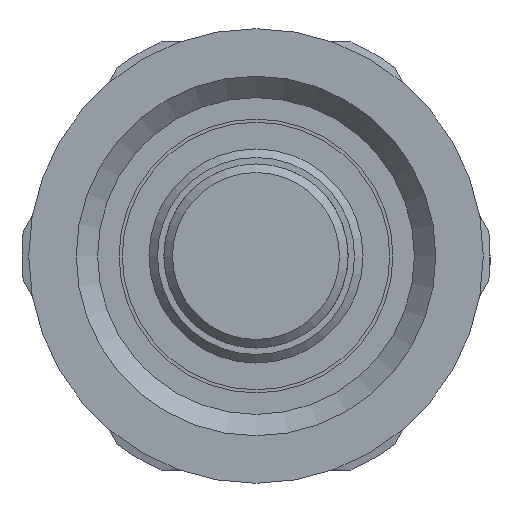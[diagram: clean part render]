
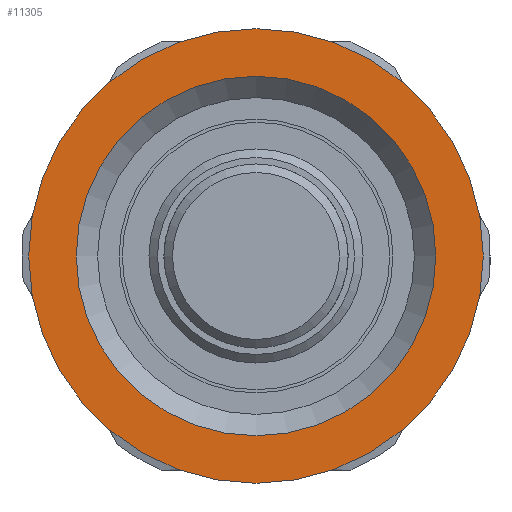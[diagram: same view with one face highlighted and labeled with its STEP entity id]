
A CAD part, left-side view. The second image highlights one B-rep face of the part: STEP entity #11305.
In plain terms, the highlighted planar face has unit normal (-1, 0, 0).
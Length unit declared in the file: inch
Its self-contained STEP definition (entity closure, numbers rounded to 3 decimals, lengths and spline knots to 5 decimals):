
#11271=CARTESIAN_POINT('',(-2.70929,-0.531,0.0));
#11272=VERTEX_POINT('',#11271);
#11273=CARTESIAN_POINT('',(-2.70929,0.,0.0));
#11274=DIRECTION('',(-1.0,0.0,0.0));
#11275=DIRECTION('',(0.0,-1.0,0.0));
#11276=AXIS2_PLACEMENT_3D('',#11273,#11274,#11275);
#11277=CIRCLE('',#11276,0.531);
#11278=EDGE_CURVE('',#11272,#11272,#11277,.T.);
#11286=CARTESIAN_POINT('',(-2.70929,-0.4755,0.0));
#11287=DIRECTION('',(-1.0,0.0,0.0));
#11288=DIRECTION('',(0.0,0.0,-1.0));
#11289=AXIS2_PLACEMENT_3D('',#11286,#11287,#11288);
#11290=PLANE('',#11289);
#11291=ORIENTED_EDGE('',*,*,#11278,.T.);
#11292=EDGE_LOOP('',(#11291));
#11293=FACE_OUTER_BOUND('',#11292,.T.);
#11294=CARTESIAN_POINT('',(-2.70929,-0.42,0.0));
#11295=VERTEX_POINT('',#11294);
#11296=CARTESIAN_POINT('',(-2.70929,0.,0.0));
#11297=DIRECTION('',(-1.0,0.0,0.0));
#11298=DIRECTION('',(0.0,-1.0,0.0));
#11299=AXIS2_PLACEMENT_3D('',#11296,#11297,#11298);
#11300=CIRCLE('',#11299,0.42);
#11301=EDGE_CURVE('',#11295,#11295,#11300,.T.);
#11302=ORIENTED_EDGE('',*,*,#11301,.F.);
#11303=EDGE_LOOP('',(#11302));
#11304=FACE_BOUND('',#11303,.T.);
#11305=ADVANCED_FACE('',(#11293,#11304),#11290,.T.);
